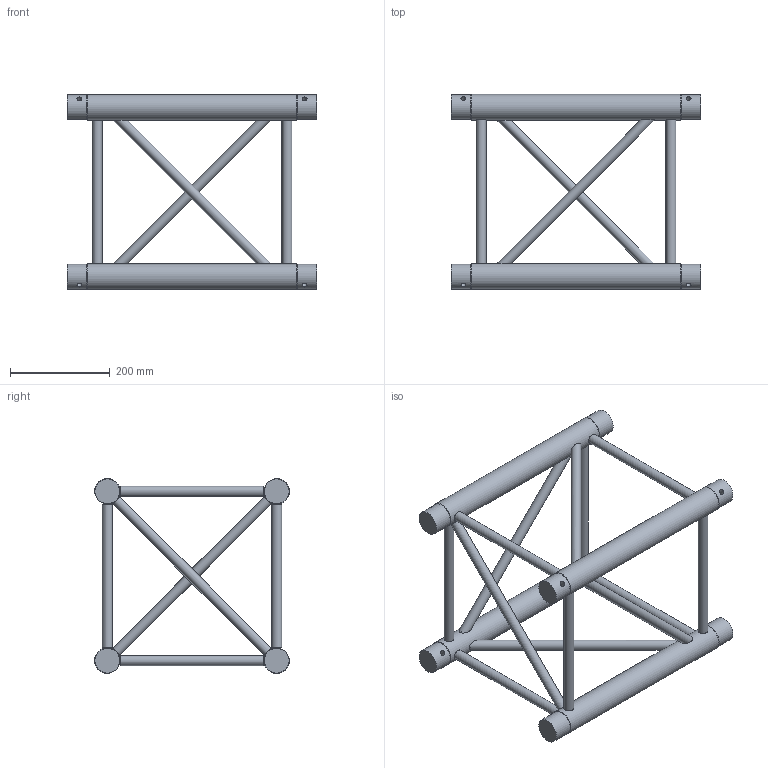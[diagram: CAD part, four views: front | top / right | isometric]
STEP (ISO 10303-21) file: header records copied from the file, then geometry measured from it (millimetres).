
FILE_DESCRIPTION(/* description */ (''),/* implementation_level */ '2;1');
FILE_NAME(/* name */ 'M:\Symbolen\STP\40-er truss\111080189.stp',/* time_stamp */ '2015-02-26T14:34:55+01:00',/* author */ ('Stephan'),/* organization */ (''),/* preprocessor_version */ 'ST-DEVELOPER v15.6',/* originating_system */ 'Autodesk Inventor 2015',/* authorisation */ '');
FILE_SCHEMA (('AUTOMOTIVE_DESIGN { 1 0 10303 214 3 1 1 }'));
Length unit declared in the file: millimetre
Products named in the file (1): 160023950
Bounding box: 500 x 389.98 x 389.98 mm (x, y, z)
Volume: 4073818.2 mm3; surface area: 659908.1 mm2
Topology: 10 solids, 18 shells, 118 faces, 218 edges, 136 vertices
Faces by surface type: plane 68, cylinder 42, cone 8
Full cylindrical faces by diameter (mm): 10 x8, 20 x14, 49.5 x8, 51 x4
Entity records: 3441 total; most frequent: CARTESIAN_POINT 1047, DIRECTION 422, ORIENTED_EDGE 360, EDGE_LOOP 200, AXIS2_PLACEMENT_3D 195, EDGE_CURVE 164, VERTEX_POINT 132, STYLED_ITEM 113
